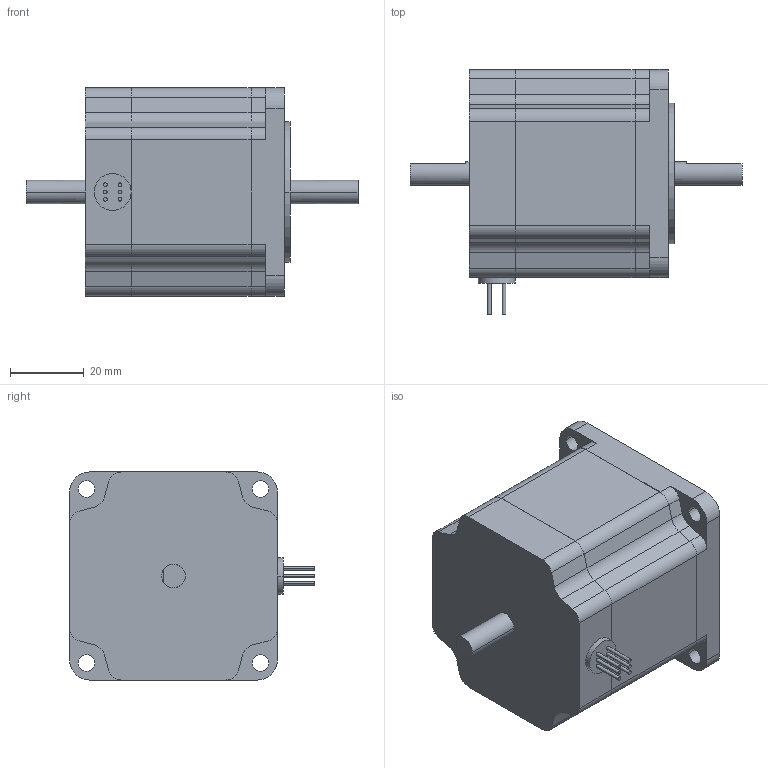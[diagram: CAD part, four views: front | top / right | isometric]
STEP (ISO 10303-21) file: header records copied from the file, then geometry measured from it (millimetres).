
FILE_DESCRIPTION( ( '' ), '1' );
FILE_NAME( 'I:/3D_CAD for Homepage/Vexta/2-Phase/PK266-01-02-03-E2.0B.stp', '2008-08-07T06:57:40', ( '' ), ( '' ), ' ', ' ', ' ' );
FILE_SCHEMA( ( 'CONFIG_CONTROL_DESIGN' ) );
Length unit declared in the file: millimetre
Products named in the file (1): 1
Bounding box: 90 x 66.4 x 56.4 mm (x, y, z)
Volume: 154230.4 mm3; surface area: 18474.6 mm2
Topology: 1 solids, 1 shells, 176 faces, 481 edges, 320 vertices
Faces by surface type: cylinder 92, plane 84
Entity records: 5697 total; most frequent: DIRECTION 1023, CARTESIAN_POINT 978, ORIENTED_EDGE 962, EDGE_CURVE 481, AXIS2_PLACEMENT_3D 365, VERTEX_POINT 320, LINE 293, VECTOR 293
